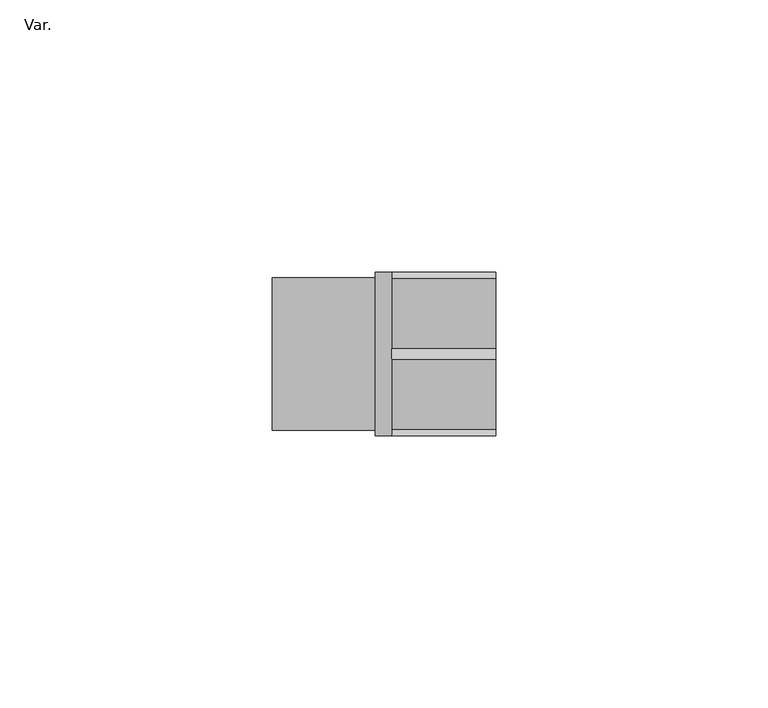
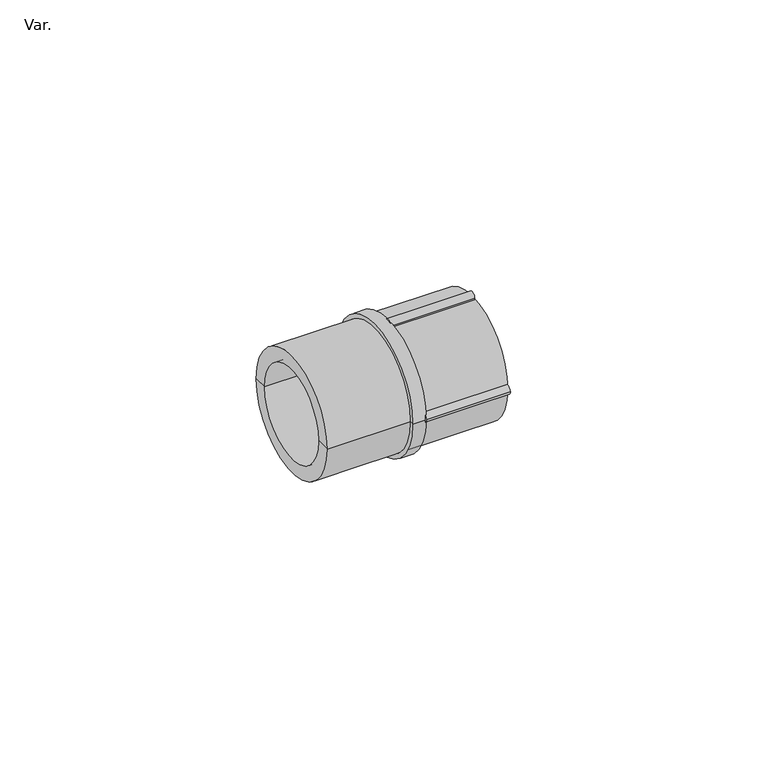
"""IFC4 building model written with IfcOpenShell, lengths in millimetres: pipe fitting geometry, AmancoWavin_Unionesdetubería_AguaPotableZNoUsarAdaptadorHembra : Var.."""

from ifc_helpers import new_model, si_unit, point, frame, frame_2d, origin, place, context, project, spatial, polyline, circle_curve, trimmed, segment, composite_curve, outline, extrude, source, transform, mapped, element, save
from ifc_brep_helpers import plane_surface, cylinder_surface, revolved_surface, advanced_brep


def var_27d4b7e6(model_context):
    return source(origin(), model_context, "Body", "SolidModel", [
        extrude(outline(composite_curve([segment(trimmed(circle_curve(frame_2d((0.0, 14.01)), 1.0), [point((-1.0, 14.01))], [point((1.0, 14.01))], False, "CARTESIAN"), True, "CONTINUOUS"), segment(trimmed(circle_curve(frame_2d((0.0, 14.01)), 1.0), [point((1.0, 14.01))], [point((-1.0, 14.01))], False, "CARTESIAN"), True, "CONTINUOUS")], self_intersect=False)), frame((1.5, 0.0, 0.0), z_axis=(1.0, 0.0, 0.0), x_axis=(0.0, 1.0, 0.0)), (0.0, 0.0, 1.0), 19.095),
        extrude(outline(composite_curve([segment(trimmed(circle_curve(frame_2d((0.0, -14.01)), 1.0), [point((-1.0, -14.01))], [point((1.0, -14.01))], False, "CARTESIAN"), True, "CONTINUOUS"), segment(trimmed(circle_curve(frame_2d((0.0, -14.01)), 1.0), [point((1.0, -14.01))], [point((-1.0, -14.01))], False, "CARTESIAN"), True, "CONTINUOUS")], self_intersect=False)), frame((1.5, 0.0, 0.0), z_axis=(1.0, 0.0, 0.0), x_axis=(0.0, 1.0, 0.0)), (0.0, 0.0, 1.0), 19.095),
        extrude(outline(composite_curve([segment(trimmed(circle_curve(frame_2d((14.01, 0.0)), 1.0), [point((13.01, 0.0))], [point((15.01, 0.0))], False, "CARTESIAN"), True, "CONTINUOUS"), segment(trimmed(circle_curve(frame_2d((14.01, 0.0)), 1.0), [point((15.01, 0.0))], [point((13.01, 0.0))], False, "CARTESIAN"), True, "CONTINUOUS")], self_intersect=False)), frame((1.5, 0.0, 0.0), z_axis=(1.0, 0.0, 0.0), x_axis=(0.0, 1.0, 0.0)), (0.0, 0.0, 1.0), 19.095),
        extrude(outline(composite_curve([segment(trimmed(circle_curve(frame_2d((-14.01, 0.0)), 1.0), [point((-15.01, 0.0))], [point((-13.01, 0.0))], False, "CARTESIAN"), True, "CONTINUOUS"), segment(trimmed(circle_curve(frame_2d((-14.01, 0.0)), 1.0), [point((-13.01, 0.0))], [point((-15.01, 0.0))], False, "CARTESIAN"), True, "CONTINUOUS")], self_intersect=False)), frame((1.5, 0.0, 0.0), z_axis=(1.0, 0.0, 0.0), x_axis=(0.0, 1.0, 0.0)), (0.0, 0.0, 1.0), 19.095),
        advanced_brep(
        [(-1.815, -10.72, 0.0), (-1.815, 10.72, 0.0), (-20.465, 10.72, 0.0), (-20.465, -10.72, 0.0), (-1.815, 0.0, 0.0), (1.815, -10.72, 0.0), (1.815, 10.72, 0.0), (1.815, 0.0, 0.0), (20.595, -10.72, 0.0), (20.595, 10.72, 0.0), (20.595, -14.01, 0.0), (20.595, 14.01, 0.0), (1.5, -14.01, 0.0), (1.5, 14.01, 0.0), (1.5, -15.01, 0.0), (1.5, 15.01, 0.0), (-1.5, -15.01, 0.0), (-1.5, 15.01, 0.0), (-1.5, -14.01, 0.0), (-1.5, 14.01, 0.0), (-20.465, -14.01, 0.0), (-20.465, 14.01, 0.0)],
        [
            (0, 1, circle_curve(frame((-1.815, 0.0, 0.0), z_axis=(1.0, 0.0, 0.0), x_axis=(0.0, 1.0, 0.0)), 10.72)),
            (1, 2),
            (2, 3, circle_curve(frame((-20.465, 0.0, 0.0), z_axis=(-1.0, 0.0, 0.0), x_axis=(0.0, 1.0, 0.0)), 10.72)),
            (3, 0),
            (1, 0, circle_curve(frame((-1.815, 0.0, 0.0), z_axis=(1.0, 0.0, 0.0), x_axis=(0.0, 1.0, 0.0)), 10.72)),
            (3, 2, circle_curve(frame((-20.465, 0.0, 0.0), z_axis=(-1.0, 0.0, 0.0), x_axis=(0.0, 1.0, 0.0)), 10.72)),
            (4, 1),
            (0, 4),
            (5, 6, circle_curve(frame((1.815, 0.0, 0.0), z_axis=(1.0, 0.0, 0.0), x_axis=(0.0, 1.0, 0.0)), 10.72)),
            (6, 7),
            (7, 5),
            (6, 5, circle_curve(frame((1.815, 0.0, 0.0), z_axis=(1.0, 0.0, 0.0), x_axis=(0.0, 1.0, 0.0)), 10.72)),
            (8, 9, circle_curve(frame((20.595, 0.0, 0.0), z_axis=(1.0, 0.0, 0.0), x_axis=(0.0, 1.0, 0.0)), 10.72)),
            (9, 6),
            (5, 8),
            (9, 8, circle_curve(frame((20.595, 0.0, 0.0), z_axis=(1.0, 0.0, 0.0), x_axis=(0.0, 1.0, 0.0)), 10.72)),
            (10, 11, circle_curve(frame((20.595, 0.0, 0.0), z_axis=(1.0, 0.0, 0.0), x_axis=(0.0, 1.0, 0.0)), 14.01)),
            (11, 9),
            (8, 10),
            (11, 10, circle_curve(frame((20.595, 0.0, 0.0), z_axis=(1.0, 0.0, 0.0), x_axis=(0.0, 1.0, 0.0)), 14.01)),
            (12, 13, circle_curve(frame((1.5, 0.0, 0.0), z_axis=(1.0, 0.0, 0.0), x_axis=(0.0, 1.0, 0.0)), 14.01)),
            (13, 11),
            (10, 12),
            (13, 12, circle_curve(frame((1.5, 0.0, 0.0), z_axis=(1.0, 0.0, 0.0), x_axis=(0.0, 1.0, 0.0)), 14.01)),
            (14, 15, circle_curve(frame((1.5, 0.0, 0.0), z_axis=(1.0, 0.0, 0.0), x_axis=(0.0, 1.0, 0.0)), 15.01)),
            (15, 13),
            (12, 14),
            (15, 14, circle_curve(frame((1.5, 0.0, 0.0), z_axis=(1.0, 0.0, 0.0), x_axis=(0.0, 1.0, 0.0)), 15.01)),
            (16, 17, circle_curve(frame((-1.5, 0.0, 0.0), z_axis=(1.0, 0.0, 0.0), x_axis=(0.0, 1.0, 0.0)), 15.01)),
            (17, 15),
            (14, 16),
            (17, 16, circle_curve(frame((-1.5, 0.0, 0.0), z_axis=(1.0, 0.0, 0.0), x_axis=(0.0, 1.0, 0.0)), 15.01)),
            (18, 19, circle_curve(frame((-1.5, 0.0, 0.0), z_axis=(1.0, 0.0, 0.0), x_axis=(0.0, 1.0, 0.0)), 14.01)),
            (19, 17),
            (16, 18),
            (19, 18, circle_curve(frame((-1.5, 0.0, 0.0), z_axis=(1.0, 0.0, 0.0), x_axis=(0.0, 1.0, 0.0)), 14.01)),
            (20, 21, circle_curve(frame((-20.465, 0.0, 0.0), z_axis=(1.0, 0.0, 0.0), x_axis=(0.0, 1.0, 0.0)), 14.01)),
            (21, 19),
            (18, 20),
            (21, 20, circle_curve(frame((-20.465, 0.0, 0.0), z_axis=(1.0, 0.0, 0.0), x_axis=(0.0, 1.0, 0.0)), 14.01)),
            (2, 21),
            (20, 3),
        ],
        [
            revolved_surface(polyline([(-20.464999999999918, 10.72, 0.0), (-1.8150000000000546, 10.72, 0.0)]), (1955.9773074, 0.0, 0.0), (-1.0, 0.0, 0.0)),
            plane_surface(frame((-1.815, 0.0, 0.0), z_axis=(-1.0, 0.0, 0.0), x_axis=(0.0, 1.0, 0.0))),
            plane_surface(frame((1.815, 0.0, 0.0), z_axis=(1.0, 0.0, 0.0), x_axis=(0.0, 1.0, 0.0))),
            revolved_surface(polyline([(1.8150000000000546, 10.72, 0.0), (20.595000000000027, 10.72, 0.0)]), (1955.9773074, 0.0, 0.0), (-1.0, 0.0, 0.0)),
            plane_surface(frame((20.595, 0.0, 0.0), z_axis=(1.0, 0.0, 0.0), x_axis=(0.0, 1.0, 0.0))),
            cylinder_surface(frame((1955.9773074, 0.0, 0.0), z_axis=(-1.0, 0.0, 0.0), x_axis=(0.0, 1.0, 0.0)), 14.01),
            plane_surface(frame((1.5, 0.0, 0.0), z_axis=(1.0, 0.0, 0.0), x_axis=(0.0, 1.0, 0.0))),
            cylinder_surface(frame((1955.9773074, 0.0, 0.0), z_axis=(-1.0, 0.0, 0.0), x_axis=(0.0, 1.0, 0.0)), 15.01),
            plane_surface(frame((-1.5, 0.0, 0.0), z_axis=(-1.0, 0.0, 0.0), x_axis=(0.0, 1.0, 0.0))),
            plane_surface(frame((-20.465, 0.0, 0.0), z_axis=(-1.0, 0.0, 0.0), x_axis=(0.0, 1.0, 0.0))),
        ],
        [
            (0, [[1, 2, 3, 4]]),
            (0, [[5, -4, 6, -2]]),
            (1, [[7, -1, 8]]),
            (1, [[-8, -5, -7]]),
            (2, [[9, 10, 11]]),
            (2, [[12, -11, -10]]),
            (3, [[13, 14, -9, 15]]),
            (3, [[16, -15, -12, -14]]),
            (4, [[17, 18, -13, 19]]),
            (4, [[20, -19, -16, -18]]),
            (5, [[21, 22, -17, 23]]),
            (5, [[24, -23, -20, -22]]),
            (6, [[25, 26, -21, 27]]),
            (6, [[28, -27, -24, -26]]),
            (7, [[29, 30, -25, 31]]),
            (7, [[32, -31, -28, -30]]),
            (8, [[33, 34, -29, 35]]),
            (8, [[36, -35, -32, -34]]),
            (5, [[37, 38, -33, 39]]),
            (5, [[40, -39, -36, -38]]),
            (9, [[-3, 41, -37, 42]]),
            (9, [[-6, -42, -40, -41]]),
        ],
    ),
    ])


if __name__ == "__main__":
    model = new_model("IFC4")
    model_context = context("Model", 3, world=origin())
    ifc_project = project(units=[si_unit("LENGTHUNIT", "METRE", prefix="MILLI")], contexts=[model_context])
    site = spatial("IfcSite", under=ifc_project)
    building = spatial("IfcBuilding", under=site)
    placement = place(None, origin())
    var_shape = var_27d4b7e6(model_context)
    element("IfcPipeFitting", 1, ObjectType="AmancoWavin_Unionesdetubería_AguaPotableZNoUsarAdaptadorHembra : Var.", at=placement, inside=building, context=model_context, shape_type="MappedRepresentation", body=[
        mapped(var_shape, transform((0.0, 0.0, 0.0), x_axis=(1.0, 0.0, 0.0), y_axis=(0.0, 1.0, 0.0), z_axis=(0.0, 0.0, 1.0))),
    ])
    save(model, "model.ifc")
